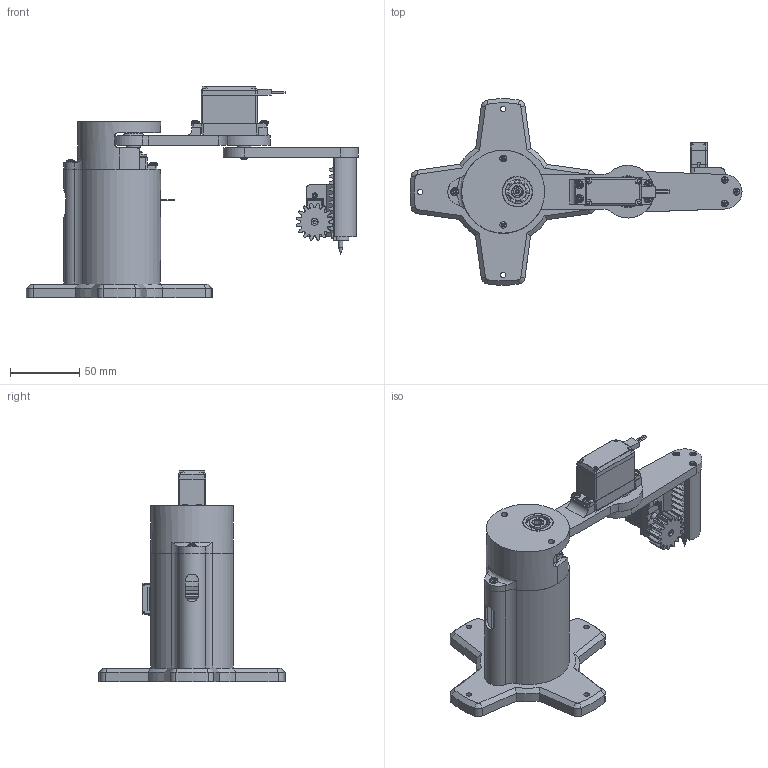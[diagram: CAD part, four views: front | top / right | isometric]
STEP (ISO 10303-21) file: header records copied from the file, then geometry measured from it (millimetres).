
FILE_DESCRIPTION(/* description */ (''),/* implementation_level */ '2;1');
FILE_NAME(/* name */ 'C:\Users\i911900\Desktop\inventor\mini_scara_2x_MG995\step\Assieme_scara_2x_MG996_pignone.stp',/* time_stamp */ '2022-01-29T10:12:04+01:00',/* author */ ('i911900'),/* organization */ (''),/* preprocessor_version */ 'ST-DEVELOPER v18.1',/* originating_system */ 'Autodesk Inventor 2022',/* authorisation */ '');
FILE_SCHEMA (('AUTOMOTIVE_DESIGN { 1 0 10303 214 3 1 1 }'));
Length unit declared in the file: millimetre
Products named in the file (26): Assieme_scara_2x_MG996_pignone; cilindro_base; link1; SKF Z608-Z; MG_996R; Top; Medio; Base; Eje; Acople circular; AS 1427 - M3 x 12; link2_mg995; AS 1427 - M2,5 x 10; chiusura_cilindro_base2; Assieme_rack_pinion_03; rack; pignone; SG90 - Micro Servo 9g - Tower Pro.3_Pea; SG90 - Micro Servo 9g - Tower Pro.1_Pea; AS 1420 - 1973 - M3 x 6; frame; Vite con testa incassata esalobulare ISO 14579 - M2x10-8.8; biro; Vite con testa incassata esalobulare ISO 14579 - M2x4-8.8; AS 1427 - M2,5 x 12; base_appoggio
Assembly tree (37 placements, depth 3):
  Assieme_scara_2x_MG996_pignone
    MG_996R  x2
      Top
      Medio
      Base
      Eje
      Acople circular
    cilindro_base
    link1
    SKF Z608-Z
    AS 1427 - M3 x 12  x9
    link2_mg995
    AS 1427 - M2,5 x 10
    AS 1427 - M2,5 x 12  x3
    chiusura_cilindro_base2
    Assieme_rack_pinion_03
      rack
      pignone
      SG90 - Micro Servo 9g - Tower Pro.3_Pea
      SG90 - Micro Servo 9g - Tower Pro.1_Pea
      AS 1420 - 1973 - M3 x 6
      frame
      Vite con testa incassata esalobulare ISO 14579 - M2x10-8.8  x2
      biro
      Vite con testa incassata esalobulare ISO 14579 - M2x4-8.8
    base_appoggio
Bounding box: 240.19 x 134.78 x 153.13 mm (x, y, z)
Volume: 286455 mm3; surface area: 139195.1 mm2
Topology: 53 solids, 53 shells, 2880 faces, 8227 edges, 5620 vertices
Faces by surface type: plane 1701, cylinder 702, cone 234, torus 126, bspline 96, sphere 21
Full cylindrical faces by diameter (mm): 0.2 x1, 0.5 x1, 1 x33, 1.2 x6, 1.6 x4, 1.8 x4, 2 x11, 2.1 x1, 2.2 x10, 2.224 x4, 2.387 x1, 2.5 x19, 2.693 x9, 2.8 x3, 3 x18, 3.8 x3, 4 x4, 4.6 x1, 4.783 x2, 5 x5, 5.3 x2, 5.5 x3, 5.6 x1, 6 x2, 6.5 x2, 6.9 x1, 8 x2, 8.5 x2, 9.9 x2, 11.2 x2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
Entity records: 79235 total; most frequent: CARTESIAN_POINT 25690, ORIENTED_EDGE 11464, DIRECTION 10127, EDGE_CURVE 5732, VERTEX_POINT 4025, AXIS2_PLACEMENT_3D 3396, LINE 3335, VECTOR 3335
